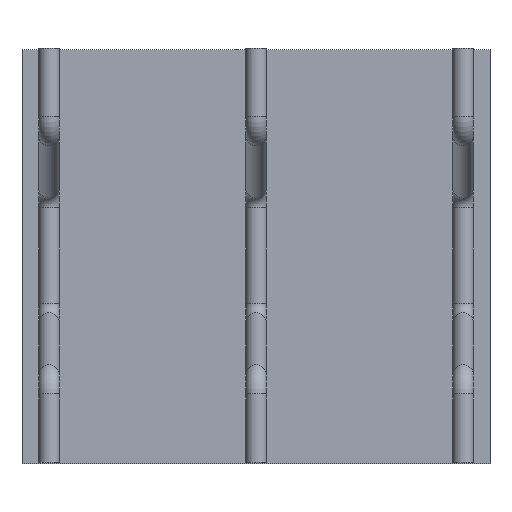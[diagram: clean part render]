
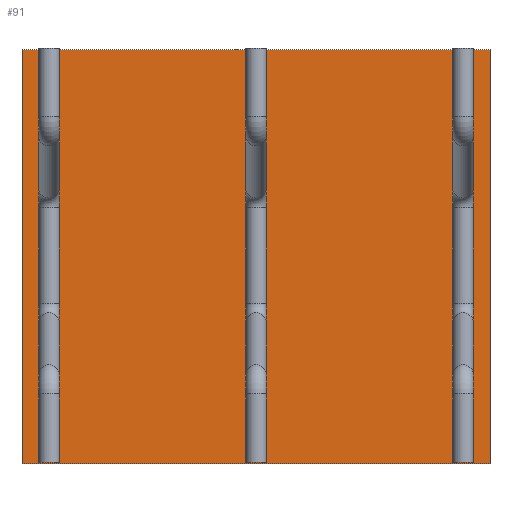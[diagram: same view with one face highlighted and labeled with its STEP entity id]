
A CAD part, top view. The second image highlights one B-rep face of the part: STEP entity #91.
In plain terms, the highlighted planar face has unit normal (0, 0, 1).
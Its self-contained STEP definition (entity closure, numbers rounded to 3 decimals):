
#52=CARTESIAN_POINT('Axis2P3D Location',(0.,0.,0.)) ;
#57=CARTESIAN_POINT('Line Origine',(0.,500.,0.)) ;
#61=CARTESIAN_POINT('Vertex',(565.,500.,0.)) ;
#63=CARTESIAN_POINT('Vertex',(-565.,500.,0.)) ;
#66=CARTESIAN_POINT('Line Origine',(-565.,0.,0.)) ;
#70=CARTESIAN_POINT('Vertex',(-565.,-500.,0.)) ;
#73=CARTESIAN_POINT('Line Origine',(0.,-500.,0.)) ;
#77=CARTESIAN_POINT('Vertex',(565.,-500.,0.)) ;
#80=CARTESIAN_POINT('Line Origine',(565.,0.,0.)) ;
#53=DIRECTION('Axis2P3D Direction',(0.,0.,1.)) ;
#54=DIRECTION('Axis2P3D XDirection',(1.,0.,0.)) ;
#58=DIRECTION('Vector Direction',(1.,0.,0.)) ;
#67=DIRECTION('Vector Direction',(0.,1.,0.)) ;
#74=DIRECTION('Vector Direction',(-1.,0.,0.)) ;
#81=DIRECTION('Vector Direction',(0.,-1.,0.)) ;
#55=AXIS2_PLACEMENT_3D('Plane Axis2P3D',#52,#53,#54) ;
#86=ORIENTED_EDGE('',*,*,#65,.T.) ;
#87=ORIENTED_EDGE('',*,*,#72,.T.) ;
#88=ORIENTED_EDGE('',*,*,#79,.T.) ;
#89=ORIENTED_EDGE('',*,*,#84,.T.) ;
#59=VECTOR('Line Direction',#58,1.) ;
#68=VECTOR('Line Direction',#67,1.) ;
#75=VECTOR('Line Direction',#74,1.) ;
#82=VECTOR('Line Direction',#81,1.) ;
#91=ADVANCED_FACE('Fill.1',(#90),#56,.T.) ;
#65=EDGE_CURVE('',#62,#64,#60,.F.) ;
#72=EDGE_CURVE('',#64,#71,#69,.F.) ;
#79=EDGE_CURVE('',#71,#78,#76,.F.) ;
#84=EDGE_CURVE('',#78,#62,#83,.F.) ;
#85=EDGE_LOOP('',(#86,#87,#88,#89)) ;
#90=FACE_OUTER_BOUND('',#85,.T.) ;
#60=LINE('Line',#57,#59) ;
#69=LINE('Line',#66,#68) ;
#76=LINE('Line',#73,#75) ;
#83=LINE('Line',#80,#82) ;
#56=PLANE('',#55) ;
#62=VERTEX_POINT('',#61) ;
#64=VERTEX_POINT('',#63) ;
#71=VERTEX_POINT('',#70) ;
#78=VERTEX_POINT('',#77) ;
